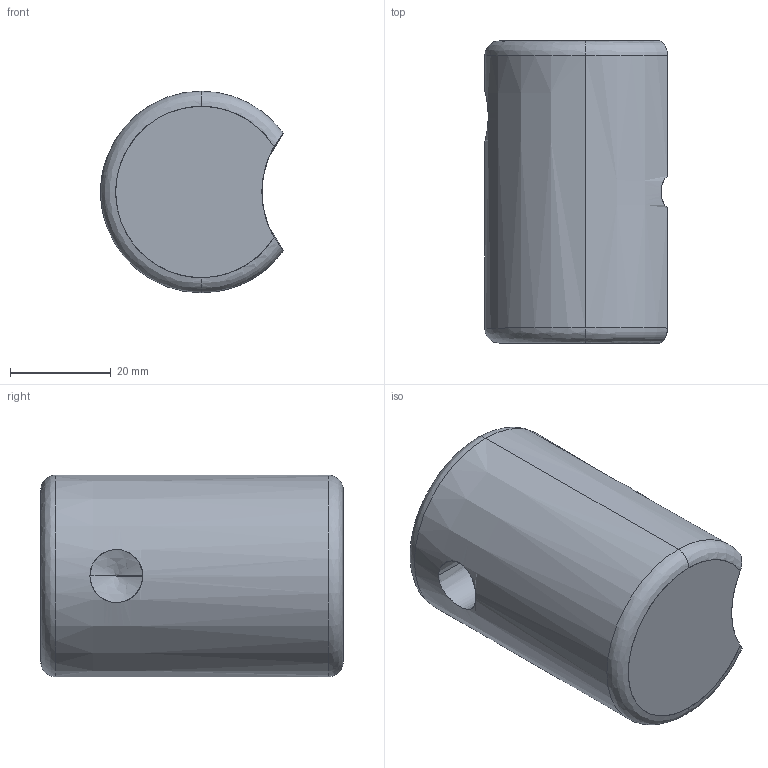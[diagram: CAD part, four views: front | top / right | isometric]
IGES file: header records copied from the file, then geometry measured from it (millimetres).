
Start section: START RECORD GO HERE.
Global section: file name: A518-2.igs; native system: DASSAULT SYSTEMES CATIA V5 R20 - www.3ds.com; preprocessor: CATIA Version 5 Release 20 ; author: Utente; organization: NB04-ASUS; date: 20200412.150251; units: millimetre
Bounding box: 36.27 x 60 x 40 mm (x, y, z)
Surface area: 10016.2 mm2 (no closed solid volume)
Topology: 0 solids, 0 shells, 18 faces, 87 edges, 85 vertices
Faces by surface type: revolution 16, extrusion 2
